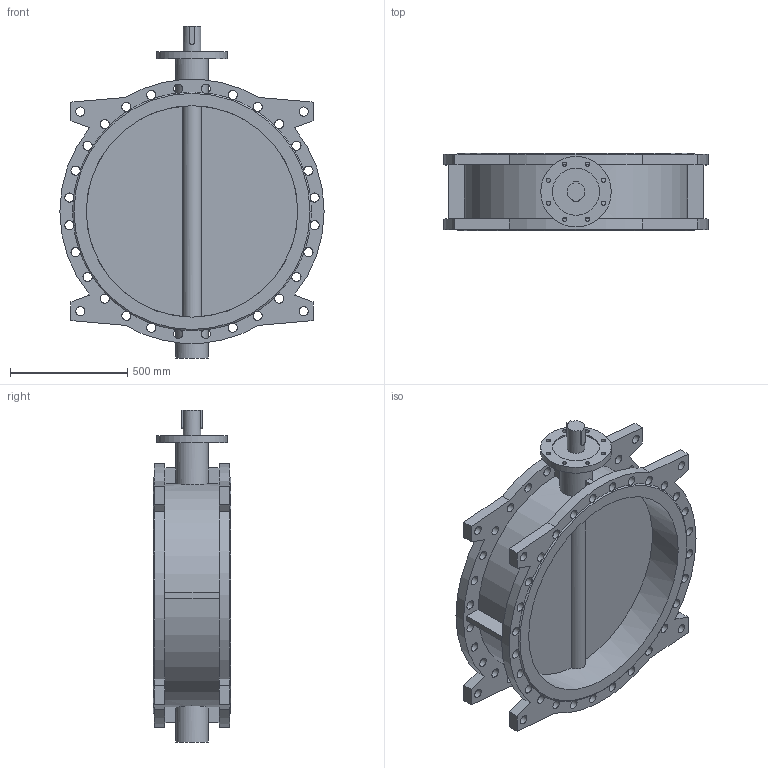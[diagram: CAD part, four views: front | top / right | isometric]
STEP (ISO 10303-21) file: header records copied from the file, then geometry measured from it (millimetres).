
FILE_DESCRIPTION(('STEP AP203'), '1');
FILE_NAME('Çàòâîð 021F.Y DN900 PN10_16 ïîä ÝÏ', '', ('UNSPECIFIED'), ('UNSPECIFIED'), 'ASCON STEP Converter 1.6', 'ASCON Math Kernel', '');
FILE_SCHEMA(('CONFIG_CONTROL_DESIGN'));
Length unit declared in the file: millimetre
Bounding box: 1125 x 330 x 1413 mm (x, y, z)
Volume: 76930616.9 mm3; surface area: 5407238.2 mm2
Topology: 1 solids, 1 shells, 160 faces, 615 edges, 410 vertices
Faces by surface type: cylinder 95, plane 63, cone 2
Full cylindrical faces by diameter (mm): 18 x8, 39 x64, 75 x1, 140 x2, 200 x1, 300 x1, 900 x2
Entity records: 13025 total; most frequent: CARTESIAN_POINT 6607, ORIENTED_EDGE 1068, DIRECTION 982, EDGE_CURVE 534, AXIS2_PLACEMENT_3D 412, VERTEX_POINT 410, EDGE_LOOP 338, CIRCLE 251
